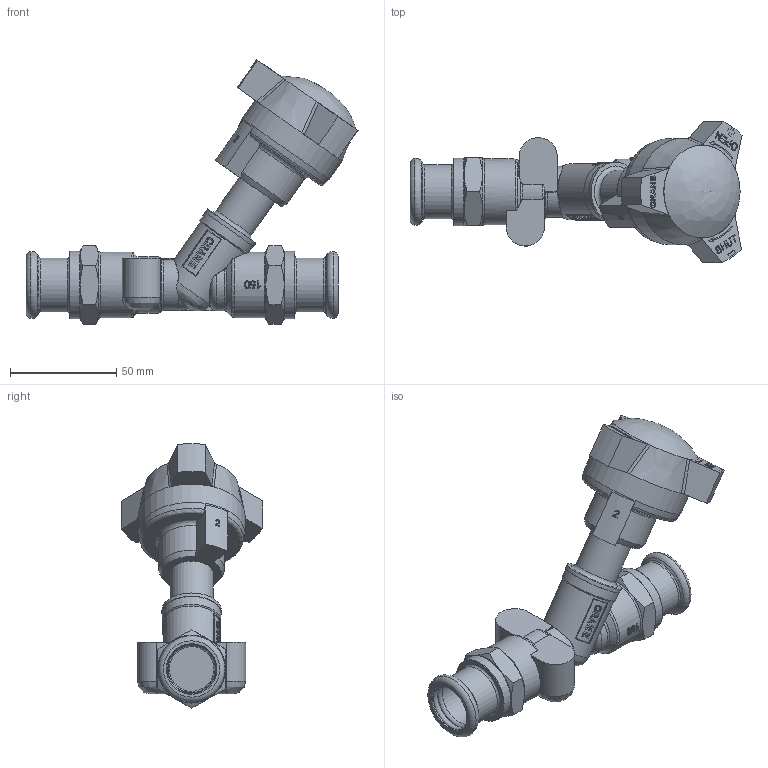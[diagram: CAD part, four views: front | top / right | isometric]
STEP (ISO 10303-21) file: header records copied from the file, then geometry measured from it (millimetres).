
FILE_DESCRIPTION((''),'2;1');
FILE_NAME('P:\Fastrack\53972_CRANE 3D\Push Fit\D921\D921-PF_22mm\D921-PF_22mm.stp','2011-08-23T16:21:47',('btaylor'),(''),'Autodesk Inventor 2008','Autodesk Inventor 2008','');
FILE_SCHEMA(('AUTOMOTIVE_DESIGN { 1 0 10303 214 1 1 1 1 }'));
Length unit declared in the file: millimetre
Products named in the file (1): D921-PF_22mm
Bounding box: 156.24 x 66.44 x 124.49 mm (x, y, z)
Volume: 188529 mm3; surface area: 38939.3 mm2
Topology: 1 solids, 3 shells, 807 faces, 2133 edges, 1386 vertices
Faces by surface type: bspline 368, plane 311, cylinder 65, cone 46, torus 15, sphere 2
Full cylindrical faces by diameter (mm): 20.3 x1, 22.2 x2, 23.2 x2, 24 x1, 25.4 x2, 27.5 x1, 28 x1, 31 x2, 31.8 x2, 50 x1
Entity records: 78075 total; most frequent: CARTESIAN_POINT 60970, ORIENTED_EDGE 4122, DIRECTION 2336, EDGE_CURVE 2061, VERTEX_POINT 1368, VECTOR 930, LINE 930, EDGE_LOOP 913
